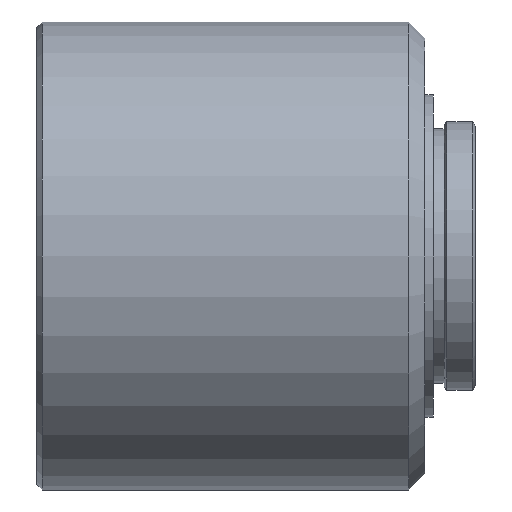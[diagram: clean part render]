
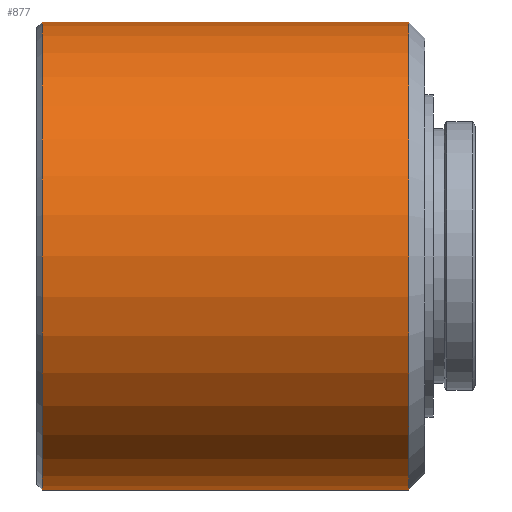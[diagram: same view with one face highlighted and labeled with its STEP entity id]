
A CAD part, front view. The second image highlights one B-rep face of the part: STEP entity #877.
In plain terms, the highlighted cylindrical face has radius 22.098 mm (diameter 44.196 mm), a partial arc.
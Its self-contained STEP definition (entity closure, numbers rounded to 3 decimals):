
#52 = VERTEX_POINT ( 'NONE', #785 ) ;
#56 = VERTEX_POINT ( 'NONE', #781 ) ;
#57 = VERTEX_POINT ( 'NONE', #780 ) ;
#62 = VERTEX_POINT ( 'NONE', #775 ) ;
#132 = ORIENTED_EDGE ( 'NONE', *, *, #845, .F. ) ;
#134 = ORIENTED_EDGE ( 'NONE', *, *, #844, .T. ) ;
#135 = ORIENTED_EDGE ( 'NONE', *, *, #833, .T. ) ;
#136 = ORIENTED_EDGE ( 'NONE', *, *, #832, .F. ) ;
#201 = VECTOR ( 'NONE', #646, 1000. ) ;
#211 = VECTOR ( 'NONE', #650, 1000. ) ;
#292 = AXIS2_PLACEMENT_3D ( 'NONE', #561, #564, #558 ) ;
#325 = CIRCLE ( 'NONE', #362, 22.098 ) ;
#330 = CIRCLE ( 'NONE', #360, 22.098 ) ;
#360 = AXIS2_PLACEMENT_3D ( 'NONE', #613, #612, #611 ) ;
#362 = AXIS2_PLACEMENT_3D ( 'NONE', #616, #615, #614 ) ;
#412 = EDGE_LOOP ( 'NONE', ( #136, #134, #135, #132 ) ) ;
#558 = DIRECTION ( 'NONE',  ( 0., 0., -1. ) ) ;
#561 = CARTESIAN_POINT ( 'NONE',  ( 0., 0., 0. ) ) ;
#562 = FACE_OUTER_BOUND ( 'NONE', #412, .T. ) ;
#563 = CYLINDRICAL_SURFACE ( 'NONE', #292, 22.098 ) ;
#564 = DIRECTION ( 'NONE',  ( 1., 0., 0. ) ) ;
#611 = DIRECTION ( 'NONE',  ( 0., 0., -1. ) ) ;
#612 = DIRECTION ( 'NONE',  ( 1., 0., 0. ) ) ;
#613 = CARTESIAN_POINT ( 'NONE',  ( 29.344, 0., 0. ) ) ;
#614 = DIRECTION ( 'NONE',  ( 0., 0., -1. ) ) ;
#615 = DIRECTION ( 'NONE',  ( 1., 0., 0. ) ) ;
#616 = CARTESIAN_POINT ( 'NONE',  ( -5.271, 0., 0. ) ) ;
#646 = DIRECTION ( 'NONE',  ( 1., 0., 0. ) ) ;
#647 = CARTESIAN_POINT ( 'NONE',  ( 0., 0., -22.098 ) ) ;
#649 = LINE ( 'NONE', #647, #201 ) ;
#650 = DIRECTION ( 'NONE',  ( 1., 0., 0. ) ) ;
#654 = LINE ( 'NONE', #656, #211 ) ;
#656 = CARTESIAN_POINT ( 'NONE',  ( 0., 0., 22.098 ) ) ;
#775 = CARTESIAN_POINT ( 'NONE',  ( -5.271, 0., 22.098 ) ) ;
#780 = CARTESIAN_POINT ( 'NONE',  ( 29.344, 0., -22.098 ) ) ;
#781 = CARTESIAN_POINT ( 'NONE',  ( 29.344, 0., 22.098 ) ) ;
#785 = CARTESIAN_POINT ( 'NONE',  ( -5.271, 0., -22.098 ) ) ;
#832 = EDGE_CURVE ( 'NONE', #62, #56, #654, .T. ) ;
#833 = EDGE_CURVE ( 'NONE', #52, #57, #649, .T. ) ;
#844 = EDGE_CURVE ( 'NONE', #62, #52, #325, .T. ) ;
#845 = EDGE_CURVE ( 'NONE', #56, #57, #330, .T. ) ;
#877 = ADVANCED_FACE ( 'NONE', ( #562 ), #563, .T. ) ;
